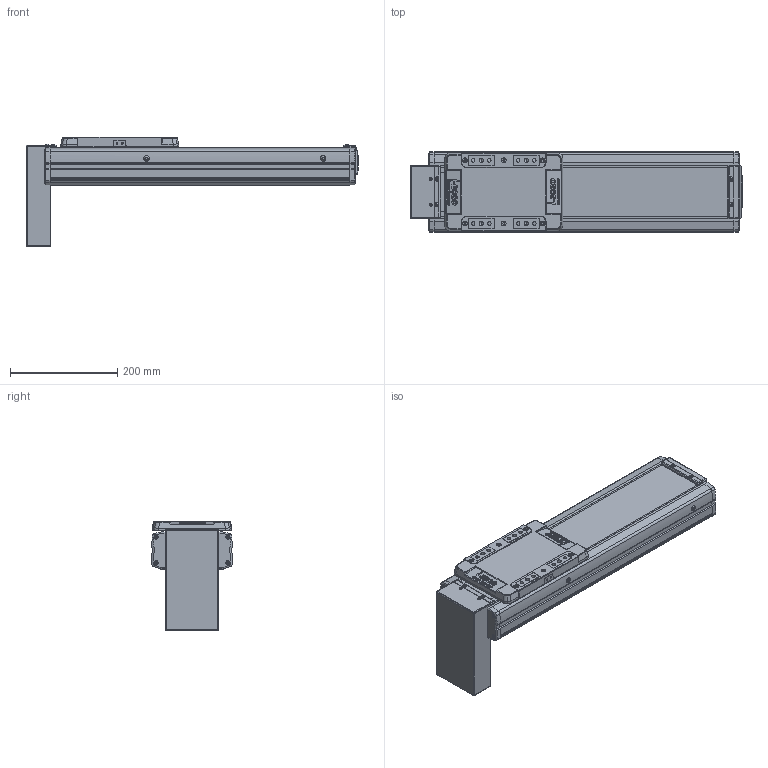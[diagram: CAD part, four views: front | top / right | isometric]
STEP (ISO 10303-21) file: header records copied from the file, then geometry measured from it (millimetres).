
FILE_DESCRIPTION(('STEP AP214'),'1');
FILE_NAME('Z:/Web/3D/SAN150/2013.04 (STP.)/SAN150ㅁㅁ-300PB.stp','2013-05-08T02:16:55',(' '),(' '),'Spatial InterOp 3D',' ',' ');
FILE_SCHEMA(('automotive_design'));
Length unit declared in the file: millimetre
Products named in the file (40): SLBL-SAN150; SLCV-SAN150; FHCS M4.0 x 8.0; BHCS M4.0 x 10.0; SFX-SAN150; RRCV-SAN150; FRBL-SAN150; Spacer; RN15; FRCV-SAN150; Screw 20; BASE-SAN150-000L ; SUS COVER; 스크루 : Round - M5.0 x 6.0; PB; 스크루 : Round - M3.0 x 6.0
Bounding box: 620 x 150 x 205.4 mm (x, y, z)
Volume: 4468125.1 mm3; surface area: 760102.5 mm2
Topology: 40 solids, 40 shells, 2077 faces, 5327 edges, 3404 vertices
Faces by surface type: plane 1029, cylinder 729, cone 226, sphere 60, bspline 21, torus 12
Entity records: 82144 total; most frequent: CARTESIAN_POINT 13218, DIRECTION 11320, ORIENTED_EDGE 10454, EDGE_CURVE 5227, AXIS2_PLACEMENT_3D 4069, VERTEX_POINT 3404, LINE 3182, VECTOR 3182
